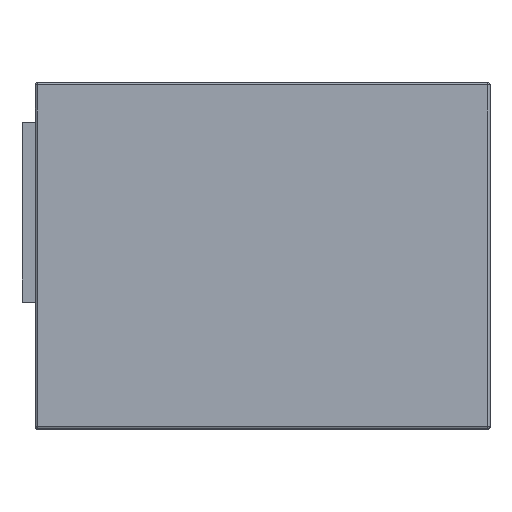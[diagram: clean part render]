
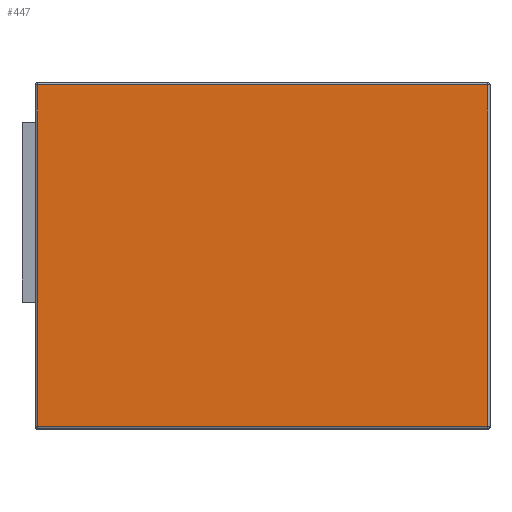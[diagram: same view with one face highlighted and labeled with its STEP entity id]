
A CAD part, top view. The second image highlights one B-rep face of the part: STEP entity #447.
In plain terms, the highlighted planar face has unit normal (0, 0, 1).
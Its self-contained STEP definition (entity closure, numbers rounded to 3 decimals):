
#447=ADVANCED_FACE('',(#911),#912,.F.);
#911=FACE_OUTER_BOUND('',#1373,.T.);
#912=PLANE('',#1374);
#1373=EDGE_LOOP('',(#2658,#2659,#2660,#2661));
#1374=AXIS2_PLACEMENT_3D('',#2662,#2663,#2664);
#2658=ORIENTED_EDGE('',*,*,#3158,.T.);
#2659=ORIENTED_EDGE('',*,*,#3208,.T.);
#2660=ORIENTED_EDGE('',*,*,#3186,.F.);
#2661=ORIENTED_EDGE('',*,*,#3216,.F.);
#2662=CARTESIAN_POINT('',(0.,0.0,302.5));
#2663=DIRECTION('',(0.,0.0,-1.0));
#2664=DIRECTION('',(-1.0,0.0,0.));
#3158=EDGE_CURVE('',#3875,#3881,#3883,.T.);
#3186=EDGE_CURVE('',#3925,#3919,#3927,.T.);
#3208=EDGE_CURVE('',#3881,#3919,#3952,.T.);
#3216=EDGE_CURVE('',#3875,#3925,#3960,.T.);
#3875=VERTEX_POINT('',#4824);
#3881=VERTEX_POINT('',#4831);
#3883=LINE('',#4833,#4834);
#3919=VERTEX_POINT('',#4876);
#3925=VERTEX_POINT('',#4883);
#3927=LINE('',#4885,#4886);
#3952=LINE('',#4917,#4918);
#3960=LINE('',#4929,#4930);
#4824=CARTESIAN_POINT('',(-504.0,-382.5,302.5));
#4831=CARTESIAN_POINT('',(504.0,-382.5,302.5));
#4833=CARTESIAN_POINT('',(0.,-382.5,302.5));
#4834=VECTOR('',#5508,1.0);
#4876=CARTESIAN_POINT('',(504.0,382.5,302.5));
#4883=CARTESIAN_POINT('',(-504.0,382.5,302.5));
#4885=CARTESIAN_POINT('',(0.,382.5,302.5));
#4886=VECTOR('',#5555,1.0);
#4917=CARTESIAN_POINT('',(504.0,0.,302.5));
#4918=VECTOR('',#5583,1.0);
#4929=CARTESIAN_POINT('',(-504.0,0.0,302.5));
#4930=VECTOR('',#5587,1.0);
#5508=DIRECTION('',(1.0,0.0,0.));
#5555=DIRECTION('',(1.0,0.0,0.));
#5583=DIRECTION('',(0.0,1.0,0.));
#5587=DIRECTION('',(0.,1.0,0.));
